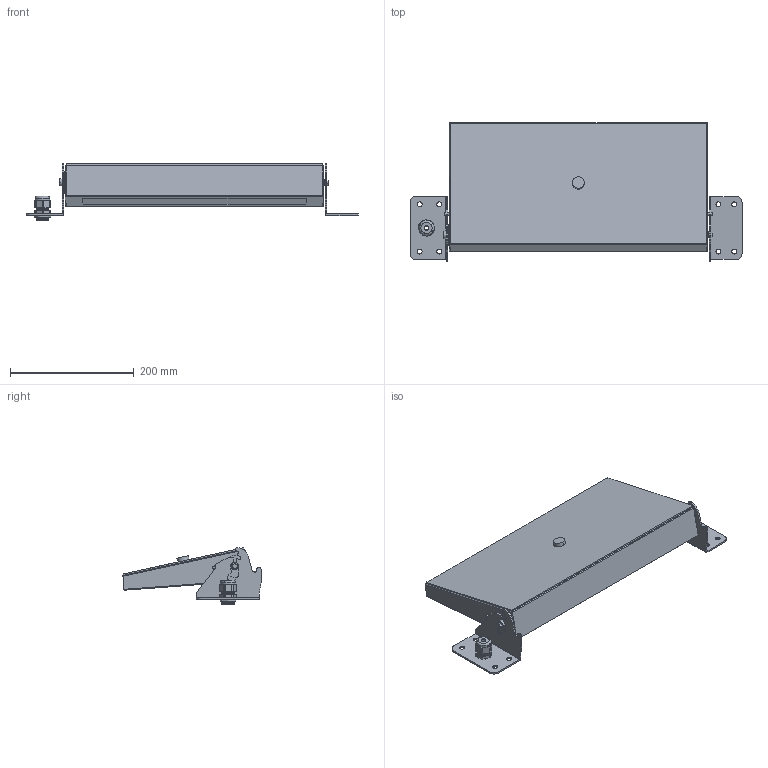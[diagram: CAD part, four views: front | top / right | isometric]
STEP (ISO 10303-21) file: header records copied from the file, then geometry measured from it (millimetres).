
FILE_DESCRIPTION (( 'STEP AP214' ), '1' );
FILE_NAME ('KB-xx-WMT-( ) Wallmount Keyboard in High Stowed Position.STEP', '2017-07-10T20:41:00', ( '' ), ( '' ), 'SwSTEP 2.0', 'SolidWorks 2017', '' );
FILE_SCHEMA (( 'AUTOMOTIVE_DESIGN' ));
Length unit declared in the file: inch
Products named in the file (5): Fitting, 30411 ; Bracket, 10756; Bracket, 10755; Keyboard Enclosure, KB-xx-WMT; KB-xx-WMT-( ) Wallmount Keyboard in High Stowed Position
Assembly tree (4 placements, depth 2):
  KB-xx-WMT-( ) Wallmount Keyboard in High Stowed Position
    Keyboard Enclosure, KB-xx-WMT
    Bracket, 10755
    Bracket, 10756
    Fitting, 30411 
Bounding box: 536.19 x 223.05 x 91.46 mm (x, y, z)
Volume: 3414489.2 mm3; surface area: 272976.6 mm2
Topology: 4 solids, 5 shells, 304 faces, 786 edges, 500 vertices
Faces by surface type: cylinder 164, plane 113, cone 14, sphere 5, torus 4, bspline 4
Entity records: 12724 total; most frequent: CARTESIAN_POINT 4797, DIRECTION 1598, ORIENTED_EDGE 1560, EDGE_CURVE 780, AXIS2_PLACEMENT_3D 604, VERTEX_POINT 498, VECTOR 390, LINE 390
